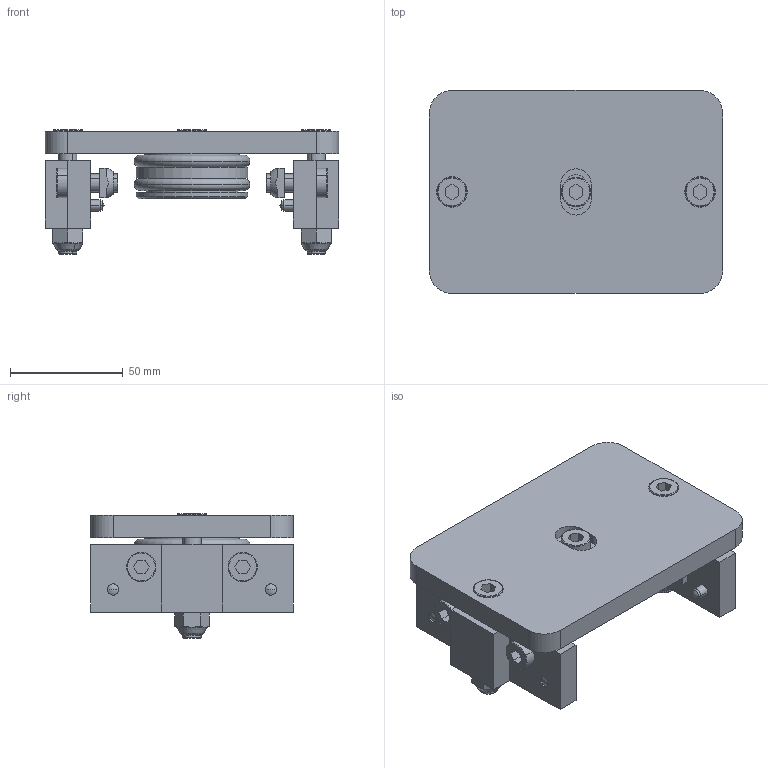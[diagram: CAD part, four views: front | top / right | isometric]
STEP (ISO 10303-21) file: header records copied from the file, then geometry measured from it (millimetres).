
FILE_DESCRIPTION (( 'STEP AP214' ), '1' );
FILE_NAME ('900.400.101.STEP', '2015-02-23T15:42:28', ( '' ), ( '' ), 'SwSTEP 2.0', 'SolidWorks 2012', '' );
FILE_SCHEMA (( 'AUTOMOTIVE_DESIGN' ));
Length unit declared in the file: millimetre
Products named in the file (11): DADI ESAGONALI AUTOBLOCCANTI UNI 7473_M8 UNI 7473; 084.301.000 VITI ALUSIC_084.301.002; SPINE CILINDRICHE_5x16 UNI 1707; GUARNIZIONI OR_OR 6162; 800.018.014; 084.301.000 VITI ALUSIC_084.301.006; 084.301.000 VITI ALUSIC_084.301.012; 084.302.000 DADI ALUSIC 13x13_084.302.004; 900.400.006; 900.400.008; 900.400.101
Assembly tree (23 placements, depth 2):
  900.400.101
    900.400.008
    900.400.006
    084.302.000 DADI ALUSIC 13x13_084.302.004  x4
    084.301.000 VITI ALUSIC_084.301.012  x4
    084.301.000 VITI ALUSIC_084.301.006  x2
    800.018.014  x2
    GUARNIZIONI OR_OR 6162  x2
    SPINE CILINDRICHE_5x16 UNI 1707  x4
    DADI ESAGONALI AUTOBLOCCANTI UNI 7473_M8 UNI 7473  x2
    084.301.000 VITI ALUSIC_084.301.002
Bounding box: 130 x 90 x 55 mm (x, y, z)
Volume: 231317.9 mm3; surface area: 76023.7 mm2
Topology: 23 solids, 23 shells, 372 faces, 840 edges, 523 vertices
Faces by surface type: plane 166, cylinder 102, cone 54, torus 42, sphere 8
Entity records: 5748 total; most frequent: CARTESIAN_POINT 1032, DIRECTION 954, ORIENTED_EDGE 800, EDGE_CURVE 400, AXIS2_PLACEMENT_3D 379, VERTEX_POINT 253, EDGE_LOOP 213, VECTOR 196
